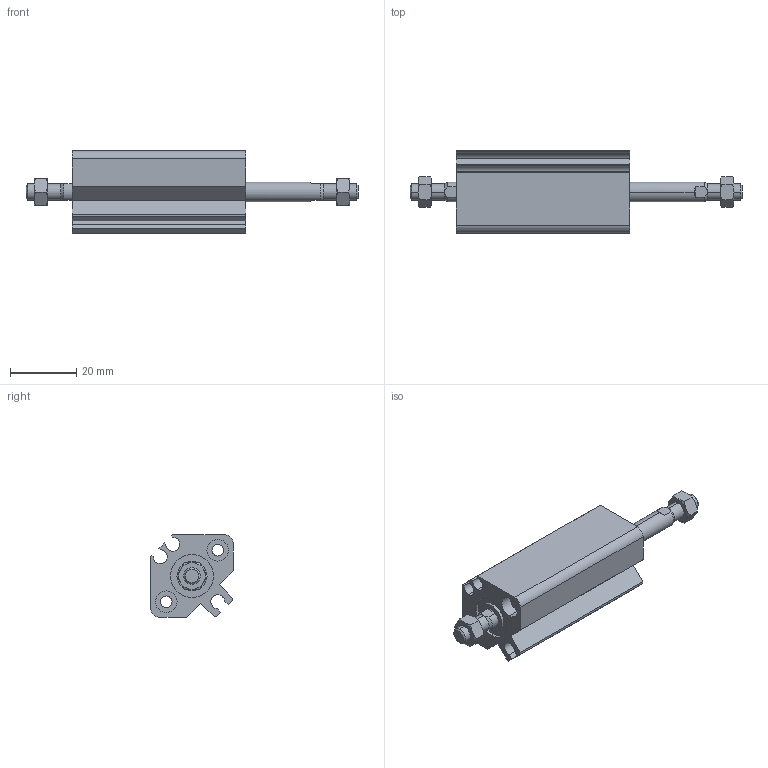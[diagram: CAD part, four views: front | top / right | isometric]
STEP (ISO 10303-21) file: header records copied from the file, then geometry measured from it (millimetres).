
FILE_DESCRIPTION (( 'STEP AP203' ), '1' );
FILE_NAME ('CCMB12-20M-P.STEP', '2020-08-10T10:56:23', ( '' ), ( '' ), 'SwSTEP 2.0', 'SolidWorks 2019', '' );
FILE_SCHEMA (( 'CONFIG_CONTROL_DESIGN' ));
Length unit declared in the file: millimetre
Products named in the file (1): CCMB12-20M-P
Bounding box: 100.4 x 25 x 25 mm (x, y, z)
Volume: 24519 mm3; surface area: 13449.3 mm2
Topology: 4 solids, 4 shells, 161 faces, 369 edges, 230 vertices
Faces by surface type: plane 63, cylinder 54, cone 44
Entity records: 4994 total; most frequent: CARTESIAN_POINT 1273, DIRECTION 777, ORIENTED_EDGE 738, EDGE_CURVE 369, AXIS2_PLACEMENT_3D 310, VERTEX_POINT 230, EDGE_LOOP 185, FACE_OUTER_BOUND 161
